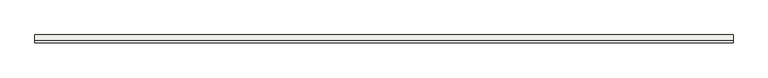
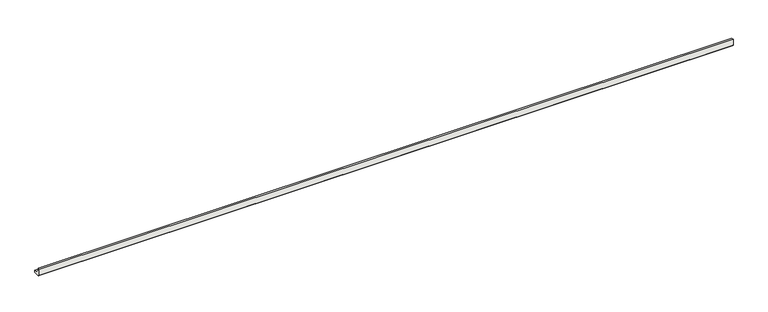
"""IFC4 building model written with IfcOpenShell, lengths in millimetres: slab geometry, ROSA GRES_112 : Pieza 112_Aqua_Plomo_Liso."""

from ifc_helpers import new_model, si_unit, point, frame, frame_2d, origin, place, context, project, spatial, polyline, circle_curve, trimmed, segment, composite_curve, outline, extrude, source, transform, mapped, element, save


def slab_bd4ad2bb(model_context):
    return source(origin(), model_context, "Body", "SweptSolid", [
        extrude(outline(composite_curve([segment(polyline([(0.0, 8.7114978), (0.0, 40.0), (9.9734114, 40.0)]), True, "CONTINUOUS"), segment(trimmed(circle_curve(frame_2d((39.9955547, 39.9955547)), 30.0221435), [point((9.9734114, 40.0))], [point((40.0, 9.9734114))], True, "CARTESIAN"), True, "CONTINUOUS"), segment(polyline([(40.0, 9.9734114), (40.0, 0.0), (8.7114978, 0.0), (0.0, 8.7114978)]), True, "CONTINUOUS")], self_intersect=False)), frame((0.0, 0.0, 0.0), z_axis=(1.0, 0.0, 0.0), x_axis=(0.0, 1.0, 0.0)), (0.0, 0.0, 1.0), 3490.3769303),
    ])


if __name__ == "__main__":
    model = new_model("IFC4")
    model_context = context("Model", 3, world=origin())
    ifc_project = project(units=[si_unit("LENGTHUNIT", "METRE", prefix="MILLI")], contexts=[model_context])
    site = spatial("IfcSite", under=ifc_project)
    building = spatial("IfcBuilding", under=site)
    placement = place(None, origin())
    slab_shape = slab_bd4ad2bb(model_context)
    element("IfcSlab", 1, ObjectType="ROSA GRES_112 : Pieza 112_Aqua_Plomo_Liso", at=placement, inside=building, context=model_context, shape_type="MappedRepresentation", body=[
        mapped(slab_shape, transform((0.0, 0.0, 0.0), x_axis=(1.0, 0.0, 0.0), y_axis=(0.0, 1.0, 0.0), z_axis=(0.0, 0.0, 1.0))),
    ])
    save(model, "model.ifc")
